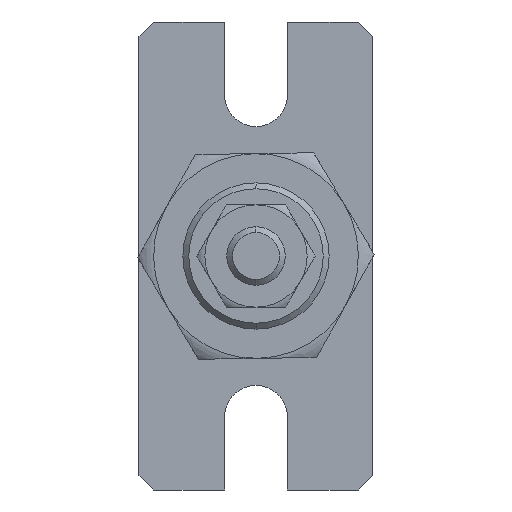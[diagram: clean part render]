
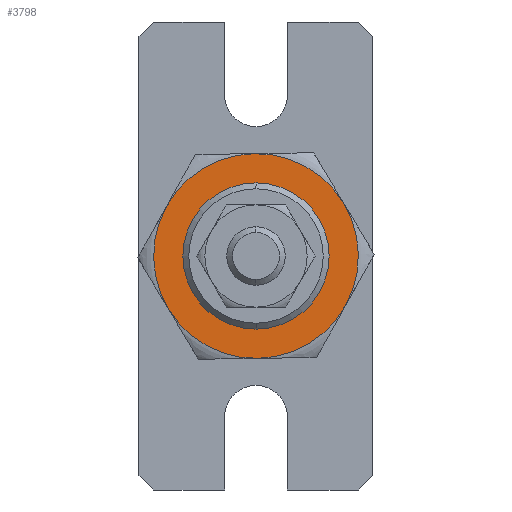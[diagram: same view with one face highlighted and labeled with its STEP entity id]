
A CAD part, left-side view. The second image highlights one B-rep face of the part: STEP entity #3798.
In plain terms, the highlighted planar face has unit normal (-1, 0, 0).
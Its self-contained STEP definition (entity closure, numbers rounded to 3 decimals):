
#38 = EDGE_CURVE ( 'NONE', #995, #1246, #3702, .T. ) ;
#165 = CARTESIAN_POINT ( 'NONE',  ( -1.5, 0., 7. ) ) ;
#196 = DIRECTION ( 'NONE',  ( 0., 0., -1. ) ) ;
#214 = DIRECTION ( 'NONE',  ( 1., 0., 0. ) ) ;
#233 = CIRCLE ( 'NONE', #1513, 7. ) ;
#280 = EDGE_LOOP ( 'NONE', ( #3571, #2688 ) ) ;
#291 = CIRCLE ( 'NONE', #742, 4.5 ) ;
#334 = EDGE_LOOP ( 'NONE', ( #3095, #3136, #1739, #1255, #1667, #1492 ) ) ;
#362 = AXIS2_PLACEMENT_3D ( 'NONE', #3835, #458, #1359 ) ;
#413 = VERTEX_POINT ( 'NONE', #2370 ) ;
#449 = VERTEX_POINT ( 'NONE', #165 ) ;
#458 = DIRECTION ( 'NONE',  ( 1., 0., 0. ) ) ;
#530 = EDGE_CURVE ( 'NONE', #2733, #2431, #291, .T. ) ;
#546 = CIRCLE ( 'NONE', #2236, 7. ) ;
#742 = AXIS2_PLACEMENT_3D ( 'NONE', #2884, #3022, #3266 ) ;
#796 = CARTESIAN_POINT ( 'NONE',  ( -1.5, 0., -4.5 ) ) ;
#972 = CARTESIAN_POINT ( 'NONE',  ( -1.5, 0., 0. ) ) ;
#995 = VERTEX_POINT ( 'NONE', #2558 ) ;
#1011 = FACE_BOUND ( 'NONE', #280, .T. ) ;
#1033 = CARTESIAN_POINT ( 'NONE',  ( -1.5, 0., 0. ) ) ;
#1176 = EDGE_CURVE ( 'NONE', #413, #3324, #2059, .T. ) ;
#1202 = DIRECTION ( 'NONE',  ( 1., 0., 0. ) ) ;
#1246 = VERTEX_POINT ( 'NONE', #2373 ) ;
#1255 = ORIENTED_EDGE ( 'NONE', *, *, #2002, .F. ) ;
#1273 = DIRECTION ( 'NONE',  ( 0., 0., 1. ) ) ;
#1293 = EDGE_CURVE ( 'NONE', #1246, #2561, #3641, .T. ) ;
#1346 = CARTESIAN_POINT ( 'NONE',  ( -1.5, 0., 0. ) ) ;
#1359 = DIRECTION ( 'NONE',  ( 0., 0., -1. ) ) ;
#1387 = DIRECTION ( 'NONE',  ( 0., 0., -1. ) ) ;
#1492 = ORIENTED_EDGE ( 'NONE', *, *, #1176, .F. ) ;
#1513 = AXIS2_PLACEMENT_3D ( 'NONE', #1033, #2979, #1273 ) ;
#1538 = CARTESIAN_POINT ( 'NONE',  ( -1.5, 6.062, 3.5 ) ) ;
#1562 = PLANE ( 'NONE',  #2400 ) ;
#1581 = DIRECTION ( 'NONE',  ( 1., 0., 0. ) ) ;
#1658 = AXIS2_PLACEMENT_3D ( 'NONE', #972, #2032, #3695 ) ;
#1667 = ORIENTED_EDGE ( 'NONE', *, *, #1910, .T. ) ;
#1739 = ORIENTED_EDGE ( 'NONE', *, *, #38, .F. ) ;
#1742 = DIRECTION ( 'NONE',  ( 0., 0., -1. ) ) ;
#1790 = AXIS2_PLACEMENT_3D ( 'NONE', #2402, #1581, #1387 ) ;
#1797 = DIRECTION ( 'NONE',  ( 1., 0., 0. ) ) ;
#1878 = EDGE_CURVE ( 'NONE', #2431, #2733, #2531, .T. ) ;
#1910 = EDGE_CURVE ( 'NONE', #449, #3324, #233, .T. ) ;
#1977 = DIRECTION ( 'NONE',  ( 0., 0., -1. ) ) ;
#2002 = EDGE_CURVE ( 'NONE', #449, #995, #3001, .T. ) ;
#2032 = DIRECTION ( 'NONE',  ( 1., 0., 0. ) ) ;
#2059 = CIRCLE ( 'NONE', #2181, 7. ) ;
#2076 = DIRECTION ( 'NONE',  ( 0., 0., -1. ) ) ;
#2085 = CARTESIAN_POINT ( 'NONE',  ( -1.5, 0., 0. ) ) ;
#2181 = AXIS2_PLACEMENT_3D ( 'NONE', #1346, #214, #1977 ) ;
#2236 = AXIS2_PLACEMENT_3D ( 'NONE', #2085, #2595, #1742 ) ;
#2370 = CARTESIAN_POINT ( 'NONE',  ( -1.5, 6.062, -3.5 ) ) ;
#2373 = CARTESIAN_POINT ( 'NONE',  ( -1.5, -6.062, -3.5 ) ) ;
#2388 = EDGE_CURVE ( 'NONE', #2561, #413, #546, .T. ) ;
#2400 = AXIS2_PLACEMENT_3D ( 'NONE', #3786, #1797, #2076 ) ;
#2402 = CARTESIAN_POINT ( 'NONE',  ( -1.5, 0., 0. ) ) ;
#2431 = VERTEX_POINT ( 'NONE', #796 ) ;
#2531 = CIRCLE ( 'NONE', #1790, 4.5 ) ;
#2558 = CARTESIAN_POINT ( 'NONE',  ( -1.5, -6.062, 3.5 ) ) ;
#2561 = VERTEX_POINT ( 'NONE', #2980 ) ;
#2595 = DIRECTION ( 'NONE',  ( 1., 0., 0. ) ) ;
#2688 = ORIENTED_EDGE ( 'NONE', *, *, #530, .T. ) ;
#2733 = VERTEX_POINT ( 'NONE', #3556 ) ;
#2884 = CARTESIAN_POINT ( 'NONE',  ( -1.5, 0., 0. ) ) ;
#2907 = CARTESIAN_POINT ( 'NONE',  ( -1.5, 0., 0. ) ) ;
#2979 = DIRECTION ( 'NONE',  ( -1., 0., 0. ) ) ;
#2980 = CARTESIAN_POINT ( 'NONE',  ( -1.5, 0., -7. ) ) ;
#3001 = CIRCLE ( 'NONE', #1658, 7. ) ;
#3022 = DIRECTION ( 'NONE',  ( 1., 0., 0. ) ) ;
#3041 = AXIS2_PLACEMENT_3D ( 'NONE', #2907, #1202, #196 ) ;
#3095 = ORIENTED_EDGE ( 'NONE', *, *, #2388, .F. ) ;
#3136 = ORIENTED_EDGE ( 'NONE', *, *, #1293, .F. ) ;
#3216 = FACE_OUTER_BOUND ( 'NONE', #334, .T. ) ;
#3266 = DIRECTION ( 'NONE',  ( 0., 0., -1. ) ) ;
#3324 = VERTEX_POINT ( 'NONE', #1538 ) ;
#3556 = CARTESIAN_POINT ( 'NONE',  ( -1.5, 0., 4.5 ) ) ;
#3571 = ORIENTED_EDGE ( 'NONE', *, *, #1878, .T. ) ;
#3641 = CIRCLE ( 'NONE', #362, 7. ) ;
#3695 = DIRECTION ( 'NONE',  ( 0., 0., -1. ) ) ;
#3702 = CIRCLE ( 'NONE', #3041, 7. ) ;
#3786 = CARTESIAN_POINT ( 'NONE',  ( -1.5, 0., 0. ) ) ;
#3798 = ADVANCED_FACE ( 'NONE', ( #1011, #3216 ), #1562, .F. ) ;
#3835 = CARTESIAN_POINT ( 'NONE',  ( -1.5, 0., 0. ) ) ;
